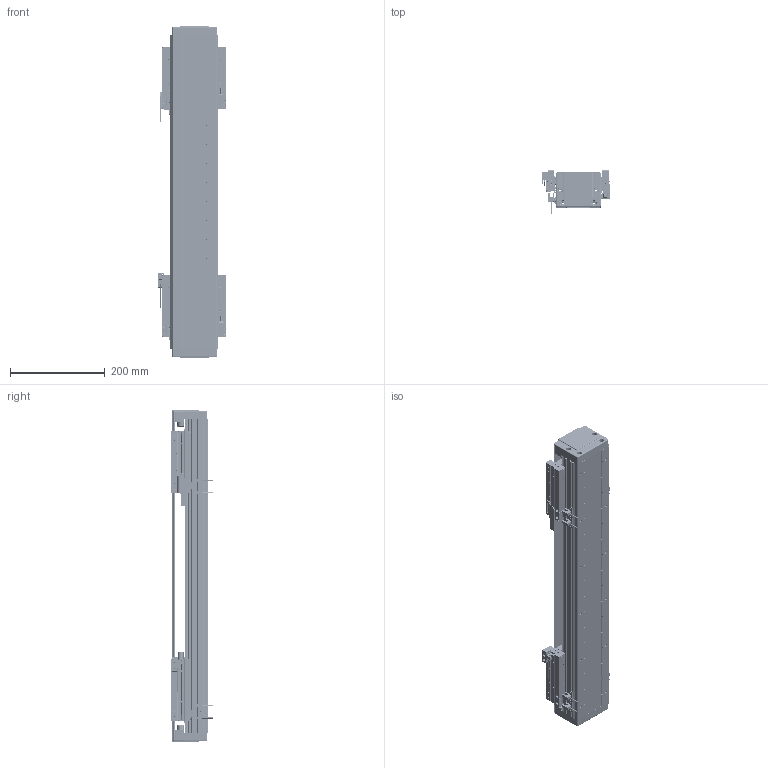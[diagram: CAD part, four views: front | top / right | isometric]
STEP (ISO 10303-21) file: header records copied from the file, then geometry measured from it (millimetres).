
FILE_DESCRIPTION (( 'STEP AP203' ), '1' );
FILE_NAME ('DA-B95-2-B15-T320-C010-0.2 直线电机.STEP', '2023-05-06T06:23:27', ( '微软用户' ), ( '微软中国' ), 'SwSTEP 2.0', 'SolidWorks 2019', '' );
FILE_SCHEMA (( 'CONFIG_CONTROL_DESIGN' ));
Length unit declared in the file: millimetre
Products named in the file (32): LMDK-2-R001-V5-L02-C1-F00，0.2M 读数头^DA-A95-B15-T-C010-0.2-N 直线电机_DMA-010-0.2; 复件 六角薄螺母 M3^DA-A95-B15-T-C010-0.2-N 直线电机_GB_FASTENER_NUT_STNAB M3-C; 复件 DKW-HXJ-JY-00 缓冲橡胶^DA-A95-B15-T-C010-0.2-N 直线电机; 复件 DA95-B15-YB-B-00 压板B^66245-BU95-V 滚珠滑台; 66245-BU95-V 幗紩賑怢; 复件 DA95-MFP-01 密封片^66245-BU95-V 滚珠滑台; 复件 66245-BU95-HT-V-01 滑动台板^66245-BU95-V-00 一体化滑动台板; 葩璃 DA95-GT-T-00^IU-BU95-L 菁釱絳寢_DA95; 复件 纯铜油杯 6x6mm^66245-BU95-V 滚珠滑台; 复件 DKW-KGZ-ZJ-00 中间光电开关支架^DA-A95-B15-T-C010-0.2-N 直线电机; 复件 DA95-HK-GT-00 滑块钢轨^66245-BU95-V-00 一体化滑动台板; 葩璃 DA95-B15-DP--B-00 菜えB^66245-BU95-V 幗紩賑怢; 66245-BU95-V-00 珨极趙賑雄怢啣; 复件 DKW-GYP-ZJ-00 中间光电感应片^DA-A95-B15-T-C010-0.2-N 直线电机; DA-B95-2-B15-T320-C010-0.2 眻盄萇儂; B15 XD-U-02L ｴﾅﾕ､ｳﾟ^DA-A95-B15-T-C010-0.2-N ﾖｱﾏﾟｵ扈銈XD-U-02L; PM-T45 光电开关^DA-A95-B15-T-C010-0.2-N 直线电机; 葩璃 PM-Y45^DA-A95-B15-T-C010-0.2-N 眻盄萇儂; 复件 DA95-DB-00  挡板^66245-BU95-V 滚珠滑台; IU-BU95-L 菁釱絳寢; 葩璃 BKM015-W060-C1-TP-DA-0.2^DA-A95-B15-T-C010-0.2-N 眻盄萇儂; DA95-DG-H-01^DA-A95-B15-T-C010-0.2-N 眻盄萇儂; 葩璃 BKMA01-W060-TRL^DA-A95-B15-T-C010-0.2-N 眻盄萇儂; DA95-HXJ-00 缓冲橡胶^DA-A95-B15-T-C010-0.2-N 直线电机; IU-BU95-L-00 菁釱_L660; 复件 DA95-B15-YB-A-00 压板A^66245-BU95-V 滚珠滑台; 复件 DA95-DK-00 挡块^66245-BU95-V 滚珠滑台; DA-A95-GYP-00 光电感应片^DA-A95-B15-T-C010-0.2-N 直线电机; ｸｴｼ DA95-Txxx-002-00 ｸﾇｰ蘓DA-A95-B15-T-C010-0.2-N ﾖｱﾏﾟｵ扈銈T+30; 葩璃 DA95-B15-DP-A-00 菜えA^66245-BU95-V 幗紩賑怢
Assembly tree (76 placements, depth 4):
  DA-B95-2-B15-T320-C010-0.2 眻盄萇儂
    IU-BU95-L 菁釱絳寢
      IU-BU95-L-00 菁釱_L660
      葩璃 DA95-GT-T-00^IU-BU95-L 菁釱絳寢_DA95  x2
    66245-BU95-V 幗紩賑怢
      66245-BU95-V-00 珨极趙賑雄怢啣
        复件 66245-BU95-HT-V-01 滑动台板^66245-BU95-V-00 一体化滑动台板
        复件 DA95-HK-GT-00 滑块钢轨^66245-BU95-V-00 一体化滑动台板  x2
      葩璃 DA95-B15-DP-A-00 菜えA^66245-BU95-V 幗紩賑怢
      复件 DA95-B15-YB-A-00 压板A^66245-BU95-V 滚珠滑台
      复件 DA95-B15-YB-B-00 压板B^66245-BU95-V 滚珠滑台
      复件 DA95-DB-00  挡板^66245-BU95-V 滚珠滑台  x4
      复件 DA95-DK-00 挡块^66245-BU95-V 滚珠滑台  x2
      复件 DA95-MFP-01 密封片^66245-BU95-V 滚珠滑台  x4
      复件 纯铜油杯 6x6mm^66245-BU95-V 滚珠滑台  x2
      葩璃 DA95-B15-DP--B-00 菜えB^66245-BU95-V 幗紩賑怢
    66245-BU95-V 幗紩賑怢
      66245-BU95-V-00 珨极趙賑雄怢啣
        复件 66245-BU95-HT-V-01 滑动台板^66245-BU95-V-00 一体化滑动台板
        复件 DA95-HK-GT-00 滑块钢轨^66245-BU95-V-00 一体化滑动台板  x2
      葩璃 DA95-B15-DP-A-00 菜えA^66245-BU95-V 幗紩賑怢
      复件 DA95-B15-YB-A-00 压板A^66245-BU95-V 滚珠滑台
      复件 DA95-B15-YB-B-00 压板B^66245-BU95-V 滚珠滑台
      复件 DA95-DB-00  挡板^66245-BU95-V 滚珠滑台  x4
      复件 DA95-DK-00 挡块^66245-BU95-V 滚珠滑台  x2
      复件 DA95-MFP-01 密封片^66245-BU95-V 滚珠滑台  x4
      复件 纯铜油杯 6x6mm^66245-BU95-V 滚珠滑台  x2
      葩璃 DA95-B15-DP--B-00 菜えB^66245-BU95-V 幗紩賑怢
    DA-A95-GYP-00 光电感应片^DA-A95-B15-T-C010-0.2-N 直线电机  x2
    LMDK-2-R001-V5-L02-C1-F00，0.2M 读数头^DA-A95-B15-T-C010-0.2-N 直线电机_DMA-010-0.2  x2
    复件 DKW-KGZ-ZJ-00 中间光电开关支架^DA-A95-B15-T-C010-0.2-N 直线电机
    葩璃 PM-Y45^DA-A95-B15-T-C010-0.2-N 眻盄萇儂
    复件 DKW-GYP-ZJ-00 中间光电感应片^DA-A95-B15-T-C010-0.2-N 直线电机
    葩璃 BKM015-W060-C1-TP-DA-0.2^DA-A95-B15-T-C010-0.2-N 眻盄萇儂  x2
    复件 DKW-HXJ-JY-00 缓冲橡胶^DA-A95-B15-T-C010-0.2-N 直线电机  x2
    PM-T45 光电开关^DA-A95-B15-T-C010-0.2-N 直线电机  x4
    B15 XD-U-02L ｴﾅﾕ､ｳﾟ^DA-A95-B15-T-C010-0.2-N ﾖｱﾏﾟｵ扈銈XD-U-02L
    DA95-DG-H-01^DA-A95-B15-T-C010-0.2-N 眻盄萇儂  x2
    ｸｴｼ DA95-Txxx-002-00 ｸﾇｰ蘓DA-A95-B15-T-C010-0.2-N ﾖｱﾏﾟｵ扈銈T+30
    DA95-HXJ-00 缓冲橡胶^DA-A95-B15-T-C010-0.2-N 直线电机  x4
    葩璃 BKMA01-W060-TRL^DA-A95-B15-T-C010-0.2-N 眻盄萇儂
    复件 六角薄螺母 M3^DA-A95-B15-T-C010-0.2-N 直线电机_GB_FASTENER_NUT_STNAB M3-C  x6
Bounding box: 145.4 x 90.2 x 700 mm (x, y, z)
Volume: 3335624.8 mm3; surface area: 1004814.6 mm2
Topology: 71 solids, 89 shells, 4134 faces, 10552 edges, 6477 vertices
Faces by surface type: cylinder 1740, plane 1442, cone 544, bspline 344, torus 60, sphere 4
Entity records: 78859 total; most frequent: CARTESIAN_POINT 21582, ORIENTED_EDGE 11042, DIRECTION 10969, EDGE_CURVE 5521, AXIS2_PLACEMENT_3D 4079, VERTEX_POINT 3492, LINE 2811, VECTOR 2811
